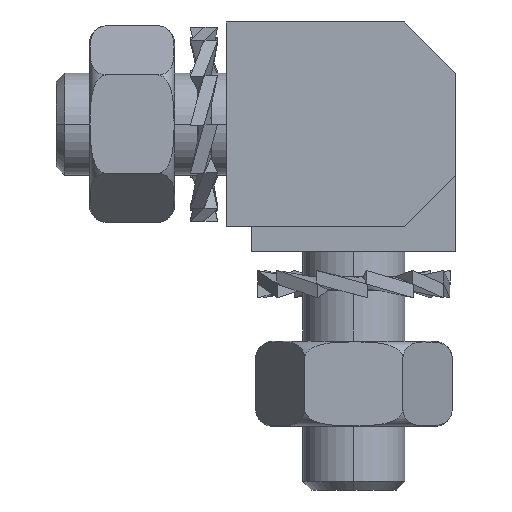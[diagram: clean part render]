
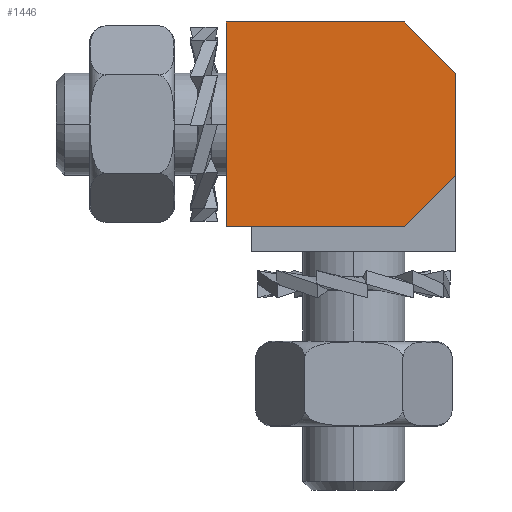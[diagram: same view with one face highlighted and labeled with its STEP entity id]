
A CAD part, left-side view. The second image highlights one B-rep face of the part: STEP entity #1446.
In plain terms, the highlighted planar face has unit normal (-1, 0, 0) as drawn and (1, 0, 0) by its records, which use the part's own axes.
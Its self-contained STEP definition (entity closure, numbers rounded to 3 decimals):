
#1446 = ADVANCED_FACE ( 'NONE', ( #4586 ), #4585, .F. ) ;
#1447 = EDGE_LOOP ( 'NONE', ( #1448, #1449, #1452, #1455, #1458, #1811 ) ) ;
#1448 = ORIENTED_EDGE ( 'NONE', *, *, #1572, .F. ) ;
#1449 = ORIENTED_EDGE ( 'NONE', *, *, #1450, .F. ) ;
#1450 = EDGE_CURVE ( 'NONE', #1451, #1570, #4580, .T. ) ;
#1451 = VERTEX_POINT ( 'NONE', #4695 ) ;
#1452 = ORIENTED_EDGE ( 'NONE', *, *, #1453, .T. ) ;
#1453 = EDGE_CURVE ( 'NONE', #1451, #1454, #4694, .T. ) ;
#1454 = VERTEX_POINT ( 'NONE', #4789 ) ;
#1455 = ORIENTED_EDGE ( 'NONE', *, *, #1456, .F. ) ;
#1456 = EDGE_CURVE ( 'NONE', #1457, #1454, #4788, .T. ) ;
#1457 = VERTEX_POINT ( 'NONE', #4784 ) ;
#1458 = ORIENTED_EDGE ( 'NONE', *, *, #1583, .T. ) ;
#1547 = EDGE_CURVE ( 'NONE', #1658, #1573, #4827, .T. ) ;
#1570 = VERTEX_POINT ( 'NONE', #4853 ) ;
#1572 = EDGE_CURVE ( 'NONE', #1570, #1573, #4852, .T. ) ;
#1573 = VERTEX_POINT ( 'NONE', #4848 ) ;
#1583 = EDGE_CURVE ( 'NONE', #1457, #1658, #4691, .T. ) ;
#1658 = VERTEX_POINT ( 'NONE', #4887 ) ;
#1811 = ORIENTED_EDGE ( 'NONE', *, *, #1547, .T. ) ;
#4577 = DIRECTION ( 'NONE',  ( 0., 0., -1. ) ) ;
#4578 = VECTOR ( 'NONE', #4577, 1000. ) ;
#4579 = CARTESIAN_POINT ( 'NONE',  ( 12., 0., 24. ) ) ;
#4580 = LINE ( 'NONE', #4579, #4578 ) ;
#4581 = DIRECTION ( 'NONE',  ( 0., -1., 0. ) ) ;
#4582 = DIRECTION ( 'NONE',  ( -1., 0., 0. ) ) ;
#4583 = AXIS2_PLACEMENT_3D ( 'NONE', #4584, #4582, #4581 ) ;
#4584 = CARTESIAN_POINT ( 'NONE',  ( 12., 0., 24. ) ) ;
#4585 = PLANE ( 'NONE',  #4583 ) ;
#4586 = FACE_OUTER_BOUND ( 'NONE', #1447, .T. ) ;
#4690 = CARTESIAN_POINT ( 'NONE',  ( 12., -12., 20.5 ) ) ;
#4691 = LINE ( 'NONE', #4690, #4806 ) ;
#4692 = VECTOR ( 'NONE', #4790, 1000. ) ;
#4693 = CARTESIAN_POINT ( 'NONE',  ( 12., 0., 20.5 ) ) ;
#4694 = LINE ( 'NONE', #4693, #4692 ) ;
#4695 = CARTESIAN_POINT ( 'NONE',  ( 12., 0., 20.5 ) ) ;
#4784 = CARTESIAN_POINT ( 'NONE',  ( 12., -9., 23.5 ) ) ;
#4785 = DIRECTION ( 'NONE',  ( 0., 1., 0. ) ) ;
#4786 = VECTOR ( 'NONE', #4785, 1000. ) ;
#4787 = CARTESIAN_POINT ( 'NONE',  ( 12., -13.786, 23.5 ) ) ;
#4788 = LINE ( 'NONE', #4787, #4786 ) ;
#4789 = CARTESIAN_POINT ( 'NONE',  ( 12., -3., 23.5 ) ) ;
#4790 = DIRECTION ( 'NONE',  ( 0., -0.707, 0.707 ) ) ;
#4805 = DIRECTION ( 'NONE',  ( 0., -0.707, -0.707 ) ) ;
#4806 = VECTOR ( 'NONE', #4805, 1000. ) ;
#4821 = DIRECTION ( 'NONE',  ( 0., 0., -1. ) ) ;
#4822 = VECTOR ( 'NONE', #4821, 1000. ) ;
#4823 = CARTESIAN_POINT ( 'NONE',  ( 12., -12., 24. ) ) ;
#4827 = LINE ( 'NONE', #4823, #4822 ) ;
#4848 = CARTESIAN_POINT ( 'NONE',  ( 12., -12., 10. ) ) ;
#4849 = DIRECTION ( 'NONE',  ( 0., -1., 0. ) ) ;
#4850 = VECTOR ( 'NONE', #4849, 1000. ) ;
#4851 = CARTESIAN_POINT ( 'NONE',  ( 12., 0., 10. ) ) ;
#4852 = LINE ( 'NONE', #4851, #4850 ) ;
#4853 = CARTESIAN_POINT ( 'NONE',  ( 12., 0., 10. ) ) ;
#4887 = CARTESIAN_POINT ( 'NONE',  ( 12., -12., 20.5 ) ) ;
